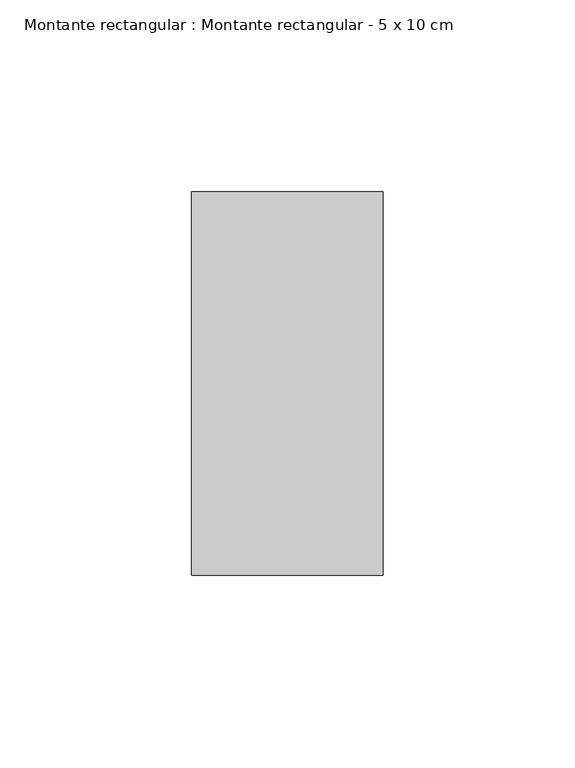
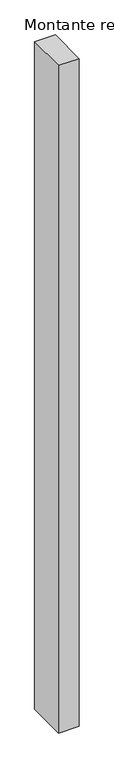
"""IFC4 building model written with IfcOpenShell, lengths in millimetres: member geometry, Montante rectangular : Montante rectangular - 5 x 10 cm."""

import ifcopenshell
import ifcopenshell.guid

model = None  # the IFC model being written
_history = None  # IfcOwnerHistory: only IFC2X3 demands one
_inside = {}  # id of a spatial element -> (the spatial element, [elements in it])
_under = {}  # id of a project, library or spatial element -> (it, [spatial elements below it])
_declared = {}  # id of a project -> (the project, [libraries it declares])
_typed = {}  # id of a type object -> (the type object, [elements of that type])
_made_of = {}  # id of a material, layer set ... -> (it, [elements and type objects made of it])


def new_model(schema):
    """Start an empty IFC model of exactly this schema.

    Asked for "IFC4X3", IfcOpenShell would pick the latest addendum, in which some entities
    have other attributes; the version numbers below select the first issue.
    IFC2X3 requires an IfcOwnerHistory on every rooted entity: one is made here for all.
    """
    global model, _history
    if schema == "IFC4X3":
        model = ifcopenshell.file(schema_version=(4, 3, 0, 0))
    else:
        model = ifcopenshell.file(schema=schema)
    _inside.clear()
    _under.clear()
    _declared.clear()
    _typed.clear()
    _made_of.clear()
    _history = None
    if model.schema == "IFC2X3":
        org = make("IfcOrganization", Name="unknown")
        user = make(
            "IfcPersonAndOrganization",
            ThePerson=make("IfcPerson", FamilyName="unknown"),
            TheOrganization=org,
        )
        app = make(
            "IfcApplication",
            ApplicationDeveloper=org,
            Version="unknown",
            ApplicationFullName="unknown",
            ApplicationIdentifier="unknown",
        )
        _history = make(
            "IfcOwnerHistory",
            OwningUser=user,
            OwningApplication=app,
            ChangeAction="ADDED",
            CreationDate=0,
        )
    return model


def make(cls, **values):
    """One entity of the class cls with the attributes given. An attribute that is None is left unset."""
    return model.create_entity(
        cls, **{name: value for name, value in values.items() if value is not None}
    )


def rooted(cls, **values):
    """An entity with a GlobalId (a new one), such as an element, a storey or a relation."""
    return make(cls, GlobalId=ifcopenshell.guid.new(), OwnerHistory=_history, **values)


def si_unit(unit_type, name, prefix=None):
    """IfcSIUnit, for example si_unit("LENGTHUNIT", "METRE", prefix="MILLI")."""
    return make("IfcSIUnit", UnitType=unit_type, Prefix=prefix, Name=name)


def assignment(units):
    """IfcUnitAssignment: the units of a project."""
    return None if units is None else make("IfcUnitAssignment", Units=units)


def point(xyz):
    """IfcCartesianPoint."""
    return None if xyz is None else make("IfcCartesianPoint", Coordinates=xyz)


def direction(xyz):
    """IfcDirection."""
    return None if xyz is None else make("IfcDirection", DirectionRatios=xyz)


def frame(location, z_axis=None, x_axis=None):
    """IfcAxis2Placement3D, a coordinate frame: its origin and axes. An axis left out is left unset."""
    return make(
        "IfcAxis2Placement3D",
        Location=point(location),
        Axis=direction(z_axis),
        RefDirection=direction(x_axis),
    )


def origin():
    """The frame at (0, 0, 0) with its axes left unset."""
    return frame((0.0, 0.0, 0.0))


def place(relative_to, where):
    """IfcLocalPlacement: puts the frame where relative to a parent placement (None: the world)."""
    return make(
        "IfcLocalPlacement", PlacementRelTo=relative_to, RelativePlacement=where
    )


def context(
    kind, dimensions, precision=None, world=None, true_north=None, identifier=None
):
    """IfcGeometricRepresentationContext, for example the 3D "Model" context."""
    return make(
        "IfcGeometricRepresentationContext",
        ContextIdentifier=identifier,
        ContextType=kind,
        CoordinateSpaceDimension=dimensions,
        Precision=precision,
        WorldCoordinateSystem=world,
        TrueNorth=true_north,
    )


def project(units=None, contexts=None):
    """IfcProject with its units and contexts."""
    return rooted(
        "IfcProject",
        Name="project",
        RepresentationContexts=contexts,
        UnitsInContext=assignment(units),
    )


def spatial(cls, under=None, at=None, **own):
    """A site, building, storey or space (cls), placed at a placement, below another one or the project."""
    s = rooted(cls, ObjectPlacement=at, **own)
    if under is not None:
        _under.setdefault(under.id(), (under, []))[1].append(s)
    return s


def polyline(points):
    """IfcPolyline through the points."""
    return make("IfcPolyline", Points=[point(p) for p in points])


def outline(outer, holes=None, kind="AREA"):
    """IfcArbitraryClosedProfileDef: a profile drawn as a closed curve; with holes, ...WithVoids."""
    if holes is None:
        return make("IfcArbitraryClosedProfileDef", ProfileType=kind, OuterCurve=outer)
    return make(
        "IfcArbitraryProfileDefWithVoids",
        ProfileType=kind,
        OuterCurve=outer,
        InnerCurves=holes,
    )


def extrude(swept, where, along, depth):
    """IfcExtrudedAreaSolid: the profile swept, set in the frame where, extruded along a direction by depth."""
    return make(
        "IfcExtrudedAreaSolid",
        SweptArea=swept,
        Position=where,
        ExtrudedDirection=direction(along),
        Depth=depth,
    )


def shape(context_of_items, identifier, shape_type, items):
    """IfcShapeRepresentation: the items that make up one representation, for example the "Body"."""
    return make(
        "IfcShapeRepresentation",
        ContextOfItems=context_of_items,
        RepresentationIdentifier=identifier,
        RepresentationType=shape_type,
        Items=items,
    )


def source(mapping_origin, context_of_items, identifier, shape_type, items):
    """IfcRepresentationMap: a shape defined once, which mapped items show again and again."""
    return make(
        "IfcRepresentationMap",
        MappingOrigin=mapping_origin,
        MappedRepresentation=shape(context_of_items, identifier, shape_type, items),
    )


def transform(
    local_origin,
    x_axis=None,
    y_axis=None,
    z_axis=None,
    scale=None,
    scale2=None,
    scale3=None,
    uniform=True,
):
    """IfcCartesianTransformationOperator3D, or its non-uniform kind. x_axis, y_axis, z_axis: its Axis1, 2, 3."""
    if uniform:
        return make(
            "IfcCartesianTransformationOperator3D",
            Axis1=direction(x_axis),
            Axis2=direction(y_axis),
            LocalOrigin=point(local_origin),
            Scale=scale,
            Axis3=direction(z_axis),
        )
    return make(
        "IfcCartesianTransformationOperator3DnonUniform",
        Axis1=direction(x_axis),
        Axis2=direction(y_axis),
        LocalOrigin=point(local_origin),
        Scale=scale,
        Axis3=direction(z_axis),
        Scale2=scale2,
        Scale3=scale3,
    )


def mapped(mapping_source, mapping_target):
    """IfcMappedItem: shows the shape of a source again, moved by a transform."""
    return make(
        "IfcMappedItem", MappingSource=mapping_source, MappingTarget=mapping_target
    )


def made_of(thing, what):
    """Note that an element or type object is made of a material, layer set ...; save() writes the relation."""
    if what is not None:
        _made_of.setdefault(what.id(), (what, []))[1].append(thing)
    return thing


def element(
    cls,
    number,
    at=None,
    inside=None,
    cuts=None,
    type_object=None,
    material=None,
    context=None,
    identifier="Body",
    shape_type=None,
    held_by="IfcProductDefinitionShape",
    body=None,
    shapes=None,
    **own,
):
    """One element of the class cls, such as IfcWall. Its Tag is "e" and its number.

    at: its placement. inside: the storey or other place that contains it. cuts: it is an
    opening in that element (IfcRelVoidsElement). A single representation is given by context,
    identifier, shape_type and body (its items); several are given by shapes. held_by: the class
    of the entity that holds the representations. save() writes the other relations.
    """
    e = rooted(cls, Tag="e%d" % number, ObjectPlacement=at, **own)
    if body is not None:
        shapes = [shape(context, identifier, shape_type, body)]
    if shapes is not None:
        e.Representation = make(held_by, Representations=shapes)
    if inside is not None:
        _inside.setdefault(inside.id(), (inside, []))[1].append(e)
    if cuts is not None:
        rooted(
            "IfcRelVoidsElement", RelatingBuildingElement=cuts, RelatedOpeningElement=e
        )
    if type_object is not None:
        _typed.setdefault(type_object.id(), (type_object, []))[1].append(e)
    return made_of(e, material)


def aggregate(whole, parts):
    """IfcRelAggregates: a whole, such as a stair, and the parts it consists of."""
    return rooted("IfcRelAggregates", RelatingObject=whole, RelatedObjects=parts)


def save(model, path):
    """Write the relations noted so far, then the file.

    IfcRelAggregates (storeys below a building ...), IfcRelContainedInSpatialStructure (elements
    in a storey), IfcRelDefinesByType, IfcRelAssociatesMaterial and IfcRelDeclares: one each for
    every whole, place, type object, material and project.
    """
    for whole, parts in _under.values():
        aggregate(whole, parts)
    for where, things in _inside.values():
        rooted(
            "IfcRelContainedInSpatialStructure",
            RelatedElements=things,
            RelatingStructure=where,
        )
    for kind, things in _typed.values():
        rooted("IfcRelDefinesByType", RelatedObjects=things, RelatingType=kind)
    for what, things in _made_of.values():
        rooted("IfcRelAssociatesMaterial", RelatedObjects=things, RelatingMaterial=what)
    for by, libraries in _declared.values():
        rooted("IfcRelDeclares", RelatingContext=by, RelatedDefinitions=libraries)
    model.write(path)


def montante_rectangular_montante_rectangular_5_x_10_cm_b76c7928(model_context):
    return source(origin(), model_context, "Body", "SweptSolid", [
        extrude(outline(polyline([(-50.0, 50.0), (0.0, 50.0), (0.0, -50.0), (-50.0, -50.0), (-50.0, 50.0)])), frame((0.0, 0.0, -1713.7191254), z_axis=(0.0, 0.0, 1.0), x_axis=(1.0, 0.0, 0.0)), (0.0, 0.0, 1.0), 1713.7191254),
    ])


if __name__ == "__main__":
    model = new_model("IFC4")
    model_context = context("Model", 3, world=origin())
    ifc_project = project(units=[si_unit("LENGTHUNIT", "METRE", prefix="MILLI")], contexts=[model_context])
    site = spatial("IfcSite", under=ifc_project)
    building = spatial("IfcBuilding", under=site)
    placement = place(None, origin())
    montante_rectangular_montante_rectangular_5_x_10_cm_shape = montante_rectangular_montante_rectangular_5_x_10_cm_b76c7928(model_context)
    element("IfcMember", 1, ObjectType="Montante rectangular : Montante rectangular - 5 x 10 cm", at=placement, inside=building, context=model_context, shape_type="MappedRepresentation", body=[
        mapped(montante_rectangular_montante_rectangular_5_x_10_cm_shape, transform((0.0, 0.0, 0.0), x_axis=(1.0, 0.0, 0.0), y_axis=(0.0, 1.0, 0.0), z_axis=(0.0, 0.0, 1.0))),
    ])
    save(model, "model.ifc")
